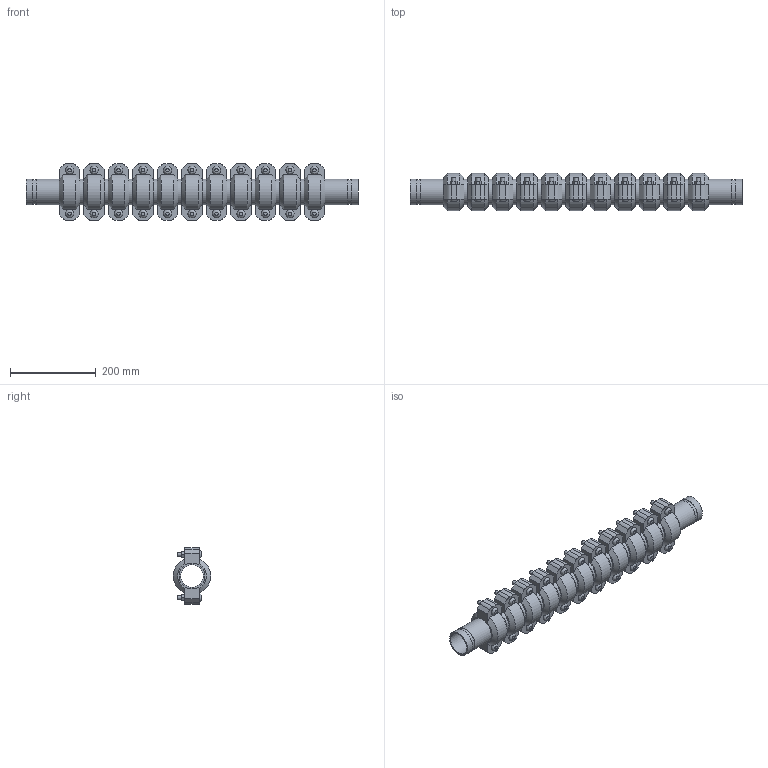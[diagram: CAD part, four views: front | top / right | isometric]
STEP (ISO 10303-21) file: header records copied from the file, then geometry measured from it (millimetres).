
FILE_DESCRIPTION(/* description */ ('VIC SS EXPANSION JOINT 11 COUPLINGS COMPRESSED STYLE 155P (OGS) (POTABLE WATER) ','CAx-IF Rec.Pracs.---Representation and Presentation of Product Manufacturing Information (PMI)---4.0---2014-10-13'),/* implementation_level */ '2;1');
FILE_NAME(/* name */ 'C:\Users\kkamble\AppData\Roaming\Autodesk\ApplicationPlugins\Victaulic.Temp\A148\Victaulic_SS_Expansion Joint_Compressed_11 Couplings_Style 155P (OGS)-Potable Water_11 Coup_Comp_2 (50).stp',/* time_stamp */ '2021-07-16T17:06:40+06:00',/* author */ ('kkamble'),/* organization */ ('Victaulic'),/* preprocessor_version */ 'ST-DEVELOPER v17.2',/* originating_system */ 'Autodesk Inventor 2019',/* authorisation */ '');
FILE_SCHEMA (('AP242_MANAGED_MODEL_BASED_3D_ENGINEERING_MIM_LF { 1 0 10303 442 1 1 4 }'));
Length unit declared in the file: inch
Products named in the file (4): 155P-02.0; Nipple-02.0; Nipple-02.0_1; 075-02.0
Assembly tree (23 placements, depth 2):
  155P-02.0
    Nipple-02.0  x2
    Nipple-02.0_1  x10
    075-02.0  x11
Bounding box: 774.7 x 87.12 x 132.59 mm (x, y, z)
Volume: 2681032.8 mm3; surface area: 729349.7 mm2
Topology: 23 solids, 45 shells, 727 faces, 1757 edges, 1234 vertices
Faces by surface type: plane 446, cylinder 215, cone 44, bspline 22
Full cylindrical faces by diameter (mm): 9.525 x44, 11.43 x22, 52.502 x12, 57.15 x24, 60.325 x47
Entity records: 2785 total; most frequent: CARTESIAN_POINT 493, DIRECTION 471, ORIENTED_EDGE 374, AXIS2_PLACEMENT_3D 190, EDGE_CURVE 187, VERTEX_POINT 134, EDGE_LOOP 101, LINE 91
